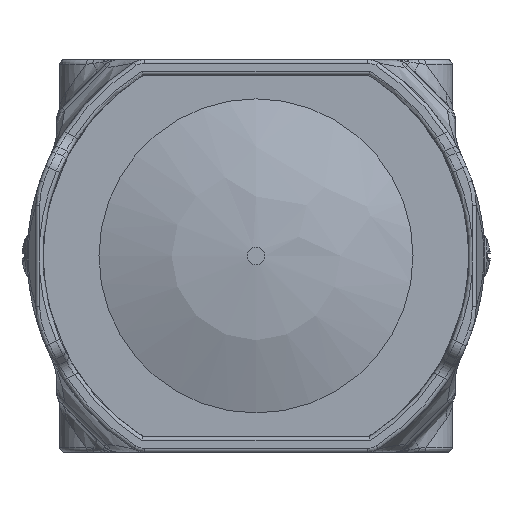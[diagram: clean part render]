
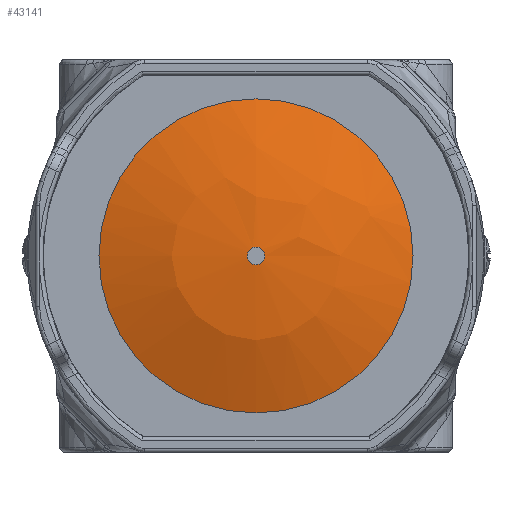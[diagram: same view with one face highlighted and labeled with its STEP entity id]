
A CAD part, left-side view. The second image highlights one B-rep face of the part: STEP entity #43141.
In plain terms, the highlighted free-form (B-spline) face has degree [2, 2] with [3, 9] control points.
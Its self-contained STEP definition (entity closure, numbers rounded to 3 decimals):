
#581=(
BOUNDED_SURFACE()
B_SPLINE_SURFACE(2,2,((#81717,#81718,#81719,#81720,#81721,#81722,#81723,
#81724,#81725),(#81726,#81727,#81728,#81729,#81730,#81731,#81732,#81733,
#81734),(#81735,#81736,#81737,#81738,#81739,#81740,#81741,#81742,#81743)),
 .UNSPECIFIED.,.F.,.T.,.F.)
B_SPLINE_SURFACE_WITH_KNOTS((3,3),(3,2,2,2,3),(1.179,1.571),
(-3.142,-1.571,0.,1.571,3.142),
 .UNSPECIFIED.)
GEOMETRIC_REPRESENTATION_ITEM()
RATIONAL_B_SPLINE_SURFACE(((1.,0.707,1.,0.707,1.,
0.707,1.,0.707,1.),(0.981,0.694,
0.981,0.694,0.981,0.694,
0.981,0.694,0.981),(1.,0.707,
1.,0.707,1.,0.707,1.,0.707,1.)))
REPRESENTATION_ITEM('')
SURFACE()
);
#3372=FACE_OUTER_BOUND('',#5914,.T.);
#5914=EDGE_LOOP('',(#33703,#33704,#33705,#33706));
#8189=CIRCLE('',#46345,8.);
#8190=CIRCLE('',#46346,0.45);
#8191=CIRCLE('',#46347,19.75);
#19113=VERTEX_POINT('',#81715);
#19114=VERTEX_POINT('',#81744);
#24364=EDGE_CURVE('',#19113,#19113,#8189,.T.);
#24365=EDGE_CURVE('',#19114,#19114,#8190,.T.);
#24366=EDGE_CURVE('',#19114,#19113,#8191,.T.);
#33703=ORIENTED_EDGE('',*,*,#24365,.T.);
#33704=ORIENTED_EDGE('',*,*,#24366,.T.);
#33705=ORIENTED_EDGE('',*,*,#24364,.T.);
#33706=ORIENTED_EDGE('',*,*,#24366,.F.);
#43141=ADVANCED_FACE('',(#3372),#581,.F.);
#46345=AXIS2_PLACEMENT_3D('',#81716,#52803,#52804);
#46346=AXIS2_PLACEMENT_3D('',#81745,#52805,#52806);
#46347=AXIS2_PLACEMENT_3D('',#81746,#52807,#52808);
#52803=DIRECTION('center_axis',(-1.,0.,0.));
#52804=DIRECTION('ref_axis',(0.,-1.,0.));
#52805=DIRECTION('center_axis',(1.,0.,0.));
#52806=DIRECTION('ref_axis',(0.,0.,1.));
#52807=DIRECTION('center_axis',(0.,1.,0.));
#52808=DIRECTION('ref_axis',(0.,0.,1.));
#81715=CARTESIAN_POINT('',(-10.45,0.,8.));
#81716=CARTESIAN_POINT('Origin',(-10.45,0.,
0.));
#81717=CARTESIAN_POINT('Ctrl Pts',(-10.45,0.,
8.));
#81718=CARTESIAN_POINT('Ctrl Pts',(-10.45,8.,8.));
#81719=CARTESIAN_POINT('Ctrl Pts',(-10.45,8.,0.));
#81720=CARTESIAN_POINT('Ctrl Pts',(-10.45,8.,-8.));
#81721=CARTESIAN_POINT('Ctrl Pts',(-10.45,0.,
-8.));
#81722=CARTESIAN_POINT('Ctrl Pts',(-10.45,-8.,
-8.));
#81723=CARTESIAN_POINT('Ctrl Pts',(-10.45,-8.,
0.));
#81724=CARTESIAN_POINT('Ctrl Pts',(-10.45,-8.,
8.));
#81725=CARTESIAN_POINT('Ctrl Pts',(-10.45,0.,
8.));
#81726=CARTESIAN_POINT('Ctrl Pts',(-11.95,0.,
4.374));
#81727=CARTESIAN_POINT('Ctrl Pts',(-11.95,4.374,4.374));
#81728=CARTESIAN_POINT('Ctrl Pts',(-11.95,4.374,0.));
#81729=CARTESIAN_POINT('Ctrl Pts',(-11.95,4.374,-4.374));
#81730=CARTESIAN_POINT('Ctrl Pts',(-11.95,0.,
-4.374));
#81731=CARTESIAN_POINT('Ctrl Pts',(-11.95,-4.374,
-4.374));
#81732=CARTESIAN_POINT('Ctrl Pts',(-11.95,-4.374,
0.));
#81733=CARTESIAN_POINT('Ctrl Pts',(-11.95,-4.374,
4.374));
#81734=CARTESIAN_POINT('Ctrl Pts',(-11.95,0.,
4.374));
#81735=CARTESIAN_POINT('Ctrl Pts',(-11.95,0.,
0.45));
#81736=CARTESIAN_POINT('Ctrl Pts',(-11.95,0.45,0.45));
#81737=CARTESIAN_POINT('Ctrl Pts',(-11.95,0.45,
0.));
#81738=CARTESIAN_POINT('Ctrl Pts',(-11.95,0.45,
-0.45));
#81739=CARTESIAN_POINT('Ctrl Pts',(-11.95,0.,
-0.45));
#81740=CARTESIAN_POINT('Ctrl Pts',(-11.95,-0.45,
-0.45));
#81741=CARTESIAN_POINT('Ctrl Pts',(-11.95,-0.45,
0.));
#81742=CARTESIAN_POINT('Ctrl Pts',(-11.95,-0.45,
0.45));
#81743=CARTESIAN_POINT('Ctrl Pts',(-11.95,0.,
0.45));
#81744=CARTESIAN_POINT('',(-11.95,0.,0.45));
#81745=CARTESIAN_POINT('Origin',(-11.95,0.,
0.));
#81746=CARTESIAN_POINT('Origin',(7.8,0.,
0.45));
